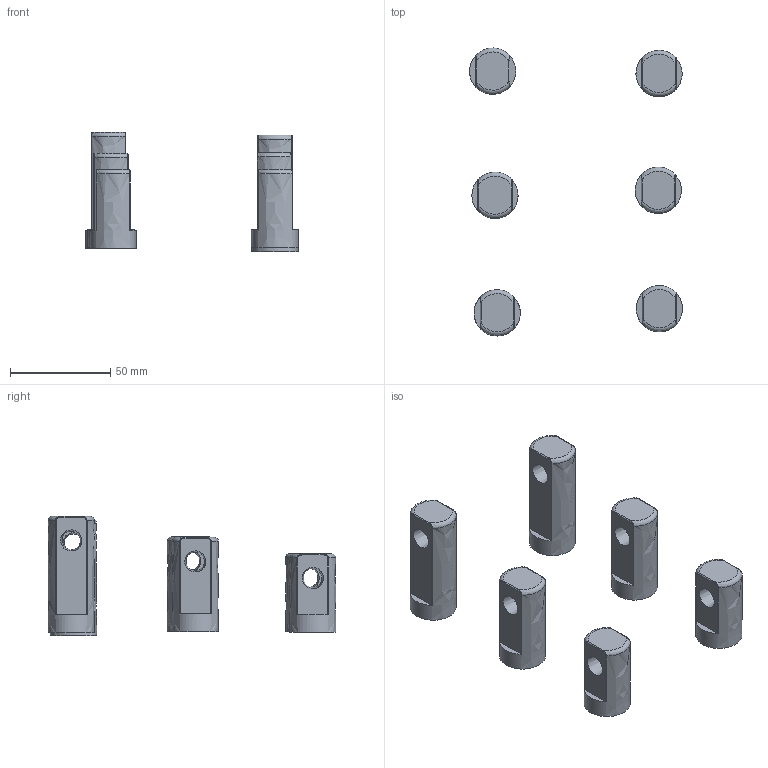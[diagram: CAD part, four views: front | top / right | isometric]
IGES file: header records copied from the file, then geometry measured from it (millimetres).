
Global section: file name: RG_M; native system: Autodesk Inventor 2015; preprocessor: unknown; author: user; date: 20170804.083812; units: millimetre
Bounding box: 106 x 143.32 x 59.41 mm (x, y, z)
Volume: 81443 mm3; surface area: 31581.5 mm2
Topology: 6 solids, 6 shells, 144 faces, 312 edges, 192 vertices
Faces by surface type: bspline 144
